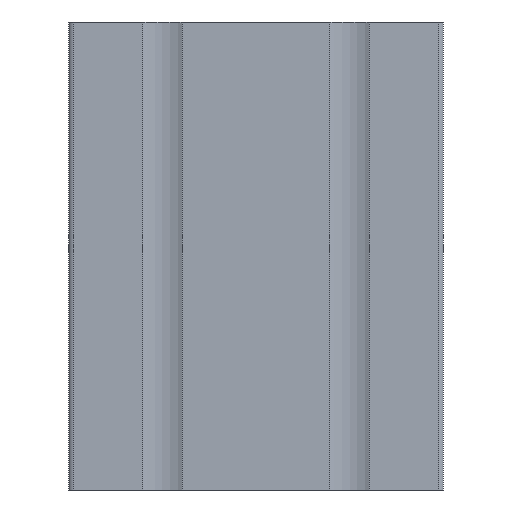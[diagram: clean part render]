
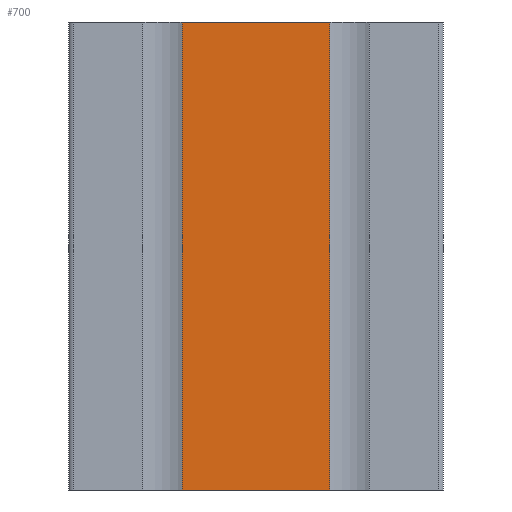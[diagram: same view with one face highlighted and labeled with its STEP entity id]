
A CAD part, front view. The second image highlights one B-rep face of the part: STEP entity #700.
In plain terms, the highlighted planar face has unit normal (0, -1, 0).
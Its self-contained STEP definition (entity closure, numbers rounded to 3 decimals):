
#123 = CARTESIAN_POINT ( 'NONE',  ( 0., -20., 50. ) ) ;
#154 = EDGE_CURVE ( 'NONE', #5588, #3225, #3924, .T. ) ;
#165 = LINE ( 'NONE', #2740, #2614 ) ;
#553 = PLANE ( 'NONE',  #2789 ) ;
#700 = ADVANCED_FACE ( 'NONE', ( #4509 ), #553, .F. ) ;
#715 = CARTESIAN_POINT ( 'NONE',  ( 15.8, -20., 50. ) ) ;
#780 = VECTOR ( 'NONE', #4033, 1000. ) ;
#1037 = CARTESIAN_POINT ( 'NONE',  ( 15.8, -20., 50. ) ) ;
#1159 = ORIENTED_EDGE ( 'NONE', *, *, #3167, .T. ) ;
#1878 = VERTEX_POINT ( 'NONE', #4233 ) ;
#1884 = DIRECTION ( 'NONE',  ( 0., 1., 0. ) ) ;
#2052 = DIRECTION ( 'NONE',  ( 0., 0., -1. ) ) ;
#2155 = EDGE_LOOP ( 'NONE', ( #2698, #5649, #3876, #1159 ) ) ;
#2614 = VECTOR ( 'NONE', #3265, 1000. ) ;
#2682 = VECTOR ( 'NONE', #3260, 1000. ) ;
#2698 = ORIENTED_EDGE ( 'NONE', *, *, #5387, .T. ) ;
#2740 = CARTESIAN_POINT ( 'NONE',  ( -15.8, -20., 50. ) ) ;
#2789 = AXIS2_PLACEMENT_3D ( 'NONE', #123, #1884, #3658 ) ;
#3068 = CARTESIAN_POINT ( 'NONE',  ( 0., -20., 50. ) ) ;
#3121 = LINE ( 'NONE', #5350, #780 ) ;
#3167 = EDGE_CURVE ( 'NONE', #5588, #1878, #165, .T. ) ;
#3225 = VERTEX_POINT ( 'NONE', #1037 ) ;
#3260 = DIRECTION ( 'NONE',  ( 1., 0., 0. ) ) ;
#3265 = DIRECTION ( 'NONE',  ( 0., 0., -1. ) ) ;
#3405 = CARTESIAN_POINT ( 'NONE',  ( -15.8, -20., 50. ) ) ;
#3658 = DIRECTION ( 'NONE',  ( 0., 0., 1. ) ) ;
#3876 = ORIENTED_EDGE ( 'NONE', *, *, #154, .F. ) ;
#3924 = LINE ( 'NONE', #3068, #2682 ) ;
#4033 = DIRECTION ( 'NONE',  ( 1., 0., 0. ) ) ;
#4233 = CARTESIAN_POINT ( 'NONE',  ( -15.8, -20., -50. ) ) ;
#4357 = LINE ( 'NONE', #715, #5041 ) ;
#4456 = VERTEX_POINT ( 'NONE', #4832 ) ;
#4509 = FACE_OUTER_BOUND ( 'NONE', #2155, .T. ) ;
#4799 = EDGE_CURVE ( 'NONE', #3225, #4456, #4357, .T. ) ;
#4832 = CARTESIAN_POINT ( 'NONE',  ( 15.8, -20., -50. ) ) ;
#5041 = VECTOR ( 'NONE', #2052, 1000. ) ;
#5350 = CARTESIAN_POINT ( 'NONE',  ( 0., -20., -50. ) ) ;
#5387 = EDGE_CURVE ( 'NONE', #1878, #4456, #3121, .T. ) ;
#5588 = VERTEX_POINT ( 'NONE', #3405 ) ;
#5649 = ORIENTED_EDGE ( 'NONE', *, *, #4799, .F. ) ;
